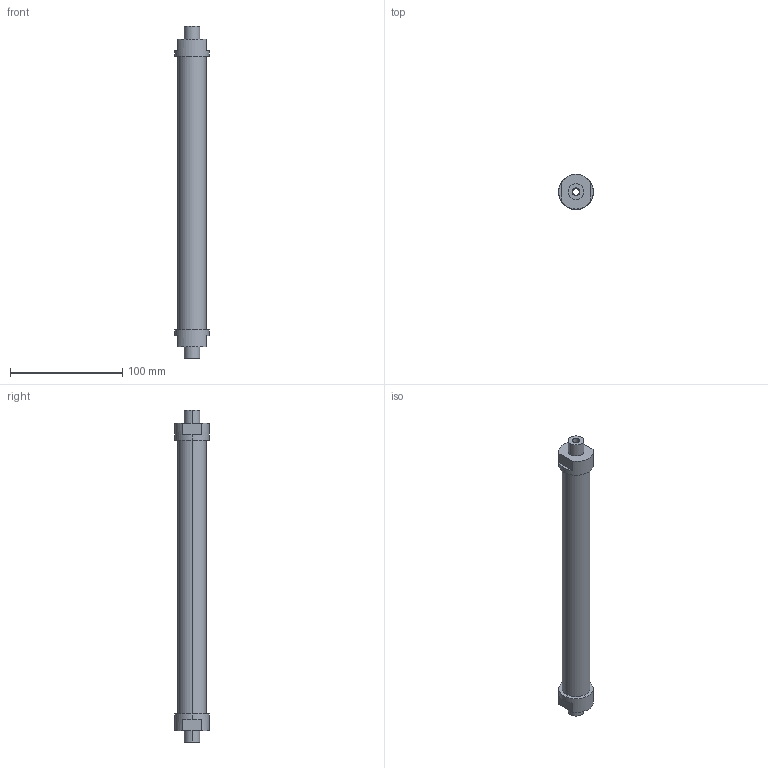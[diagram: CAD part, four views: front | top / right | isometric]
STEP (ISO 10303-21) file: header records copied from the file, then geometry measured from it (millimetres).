
FILE_DESCRIPTION(('STEP AP214'),'1');
FILE_NAME('ETT-R050G284.stp','2015-02-02T11:39:03',(' '),(' '),'Spatial InterOp 3D',' ',' ');
FILE_SCHEMA(('automotive_design'));
Length unit declared in the file: metre
Products named in the file (3): 1; 2; 3
Bounding box: 31 x 31 x 296 mm (x, y, z)
Volume: 136288.7 mm3; surface area: 31087.3 mm2
Topology: 1 solids, 7 shells, 32 faces, 86 edges, 66 vertices
Faces by surface type: cylinder 16, plane 16
Entity records: 1375 total; most frequent: DIRECTION 206, CARTESIAN_POINT 187, ORIENTED_EDGE 148, EDGE_CURVE 86, AXIS2_PLACEMENT_3D 85, VERTEX_POINT 66, CIRCLE 50, EDGE_LOOP 40
